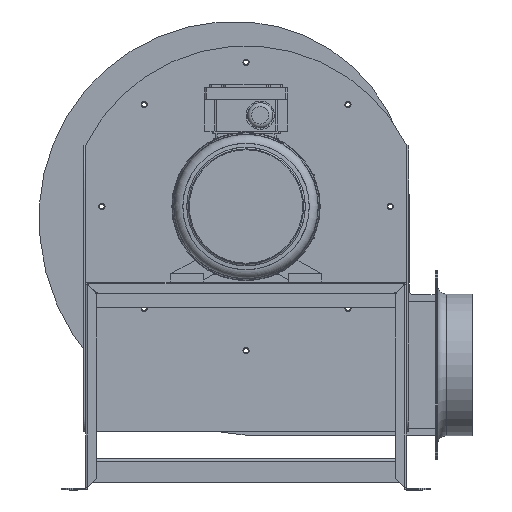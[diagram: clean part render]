
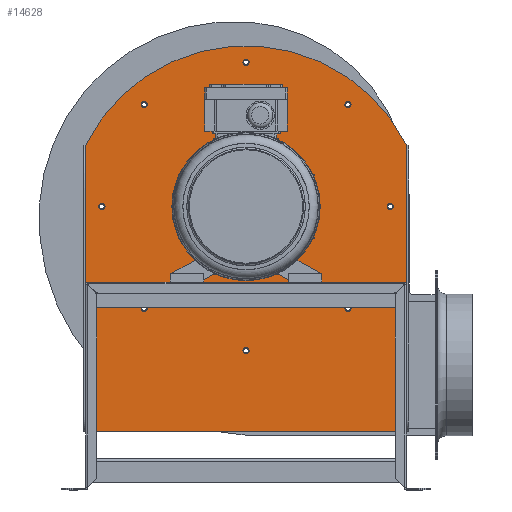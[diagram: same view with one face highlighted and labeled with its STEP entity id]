
A CAD part, left-side view. The second image highlights one B-rep face of the part: STEP entity #14628.
In plain terms, the highlighted planar face has unit normal (-1, 0, 0) as drawn and (0, 0, 1) by its records, which use the part's own axes.
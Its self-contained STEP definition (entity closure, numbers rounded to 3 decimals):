
#1145=CIRCLE('',#16128,3.25);
#1146=CIRCLE('',#16129,3.25);
#1147=CIRCLE('',#16130,3.25);
#1148=CIRCLE('',#16131,3.25);
#1149=CIRCLE('',#16132,3.25);
#1150=CIRCLE('',#16133,3.25);
#1151=CIRCLE('',#16134,30.);
#1152=CIRCLE('',#16135,3.25);
#1153=CIRCLE('',#16136,3.25);
#1154=CIRCLE('',#16137,190.119);
#4697=ORIENTED_EDGE('',*,*,#7200,.F.);
#4698=ORIENTED_EDGE('',*,*,#7201,.F.);
#4699=ORIENTED_EDGE('',*,*,#7202,.F.);
#4700=ORIENTED_EDGE('',*,*,#7203,.F.);
#4701=ORIENTED_EDGE('',*,*,#7204,.F.);
#4702=ORIENTED_EDGE('',*,*,#7205,.F.);
#4703=ORIENTED_EDGE('',*,*,#7206,.F.);
#4704=ORIENTED_EDGE('',*,*,#7207,.F.);
#4705=ORIENTED_EDGE('',*,*,#7208,.F.);
#4706=ORIENTED_EDGE('',*,*,#7209,.T.);
#4707=ORIENTED_EDGE('',*,*,#7210,.T.);
#4708=ORIENTED_EDGE('',*,*,#7211,.T.);
#4709=ORIENTED_EDGE('',*,*,#7212,.T.);
#7200=EDGE_CURVE('',#8682,#8682,#1145,.T.);
#7201=EDGE_CURVE('',#8683,#8683,#1146,.T.);
#7202=EDGE_CURVE('',#8684,#8684,#1147,.T.);
#7203=EDGE_CURVE('',#8685,#8685,#1148,.T.);
#7204=EDGE_CURVE('',#8686,#8686,#1149,.T.);
#7205=EDGE_CURVE('',#8687,#8687,#1150,.T.);
#7206=EDGE_CURVE('',#8688,#8688,#1151,.T.);
#7207=EDGE_CURVE('',#8689,#8689,#1152,.T.);
#7208=EDGE_CURVE('',#8690,#8690,#1153,.T.);
#7209=EDGE_CURVE('',#8691,#8692,#1154,.T.);
#7210=EDGE_CURVE('',#8692,#8693,#10009,.T.);
#7211=EDGE_CURVE('',#8693,#8694,#10010,.T.);
#7212=EDGE_CURVE('',#8694,#8691,#10011,.T.);
#8682=VERTEX_POINT('',#24686);
#8683=VERTEX_POINT('',#24688);
#8684=VERTEX_POINT('',#24690);
#8685=VERTEX_POINT('',#24692);
#8686=VERTEX_POINT('',#24694);
#8687=VERTEX_POINT('',#24696);
#8688=VERTEX_POINT('',#24698);
#8689=VERTEX_POINT('',#24700);
#8690=VERTEX_POINT('',#24702);
#8691=VERTEX_POINT('',#24704);
#8692=VERTEX_POINT('',#24705);
#8693=VERTEX_POINT('',#24707);
#8694=VERTEX_POINT('',#24709);
#10009=LINE('',#24706,#11252);
#10010=LINE('',#24708,#11253);
#10011=LINE('',#24710,#11254);
#11252=VECTOR('',#19998,1000.);
#11253=VECTOR('',#19999,1000.);
#11254=VECTOR('',#20000,1000.);
#12195=EDGE_LOOP('',(#4697));
#12196=EDGE_LOOP('',(#4698));
#12197=EDGE_LOOP('',(#4699));
#12198=EDGE_LOOP('',(#4700));
#12199=EDGE_LOOP('',(#4701));
#12200=EDGE_LOOP('',(#4702));
#12201=EDGE_LOOP('',(#4703));
#12202=EDGE_LOOP('',(#4704));
#12203=EDGE_LOOP('',(#4705));
#12204=EDGE_LOOP('',(#4706,#4707,#4708,#4709));
#13262=FACE_BOUND('',#12195,.T.);
#13263=FACE_BOUND('',#12196,.T.);
#13264=FACE_BOUND('',#12197,.T.);
#13265=FACE_BOUND('',#12198,.T.);
#13266=FACE_BOUND('',#12199,.T.);
#13267=FACE_BOUND('',#12200,.T.);
#13268=FACE_BOUND('',#12201,.T.);
#13269=FACE_BOUND('',#12202,.T.);
#13270=FACE_BOUND('',#12203,.T.);
#13271=FACE_BOUND('',#12204,.T.);
#13920=PLANE('',#16127);
#14628=ADVANCED_FACE('',(#13262,#13263,#13264,#13265,#13266,#13267,#13268,
#13269,#13270,#13271),#13920,.T.);
#16127=AXIS2_PLACEMENT_3D('',#24684,#19976,#19977);
#16128=AXIS2_PLACEMENT_3D('',#24685,#19978,#19979);
#16129=AXIS2_PLACEMENT_3D('',#24687,#19980,#19981);
#16130=AXIS2_PLACEMENT_3D('',#24689,#19982,#19983);
#16131=AXIS2_PLACEMENT_3D('',#24691,#19984,#19985);
#16132=AXIS2_PLACEMENT_3D('',#24693,#19986,#19987);
#16133=AXIS2_PLACEMENT_3D('',#24695,#19988,#19989);
#16134=AXIS2_PLACEMENT_3D('',#24697,#19990,#19991);
#16135=AXIS2_PLACEMENT_3D('',#24699,#19992,#19993);
#16136=AXIS2_PLACEMENT_3D('',#24701,#19994,#19995);
#16137=AXIS2_PLACEMENT_3D('',#24703,#19996,#19997);
#19976=DIRECTION('',(0.,0.,1.));
#19977=DIRECTION('',(1.,0.,0.));
#19978=DIRECTION('',(0.,0.,1.));
#19979=DIRECTION('',(1.,0.,0.));
#19980=DIRECTION('',(0.,0.,1.));
#19981=DIRECTION('',(1.,0.,0.));
#19982=DIRECTION('',(0.,0.,1.));
#19983=DIRECTION('',(1.,0.,0.));
#19984=DIRECTION('',(0.,0.,1.));
#19985=DIRECTION('',(1.,0.,0.));
#19986=DIRECTION('',(0.,0.,1.));
#19987=DIRECTION('',(1.,0.,0.));
#19988=DIRECTION('',(0.,0.,1.));
#19989=DIRECTION('',(1.,0.,0.));
#19990=DIRECTION('',(0.,0.,1.));
#19991=DIRECTION('',(1.,0.,0.));
#19992=DIRECTION('',(0.,0.,1.));
#19993=DIRECTION('',(1.,0.,0.));
#19994=DIRECTION('',(0.,0.,1.));
#19995=DIRECTION('',(1.,0.,0.));
#19996=DIRECTION('',(0.,0.,1.));
#19997=DIRECTION('',(1.,0.,0.));
#19998=DIRECTION('',(0.,-1.,0.));
#19999=DIRECTION('',(1.,0.,0.));
#20000=DIRECTION('',(0.,1.,0.));
#24684=CARTESIAN_POINT('',(0.,-20.119,2.));
#24685=CARTESIAN_POINT('',(107.834,107.834,2.));
#24686=CARTESIAN_POINT('',(111.084,107.834,2.));
#24687=CARTESIAN_POINT('',(152.5,0.,2.));
#24688=CARTESIAN_POINT('',(155.75,0.,2.));
#24689=CARTESIAN_POINT('',(107.834,-107.834,2.));
#24690=CARTESIAN_POINT('',(111.084,-107.834,2.));
#24691=CARTESIAN_POINT('',(0.,-152.5,2.));
#24692=CARTESIAN_POINT('',(3.25,-152.5,2.));
#24693=CARTESIAN_POINT('',(-107.834,-107.834,2.));
#24694=CARTESIAN_POINT('',(-104.584,-107.834,2.));
#24695=CARTESIAN_POINT('',(-152.5,0.,2.));
#24696=CARTESIAN_POINT('',(-149.25,0.,2.));
#24697=CARTESIAN_POINT('',(0.,0.,2.));
#24698=CARTESIAN_POINT('',(30.,0.,2.));
#24699=CARTESIAN_POINT('',(-107.834,107.834,2.));
#24700=CARTESIAN_POINT('',(-104.584,107.834,2.));
#24701=CARTESIAN_POINT('',(0.,152.5,2.));
#24702=CARTESIAN_POINT('',(3.25,152.5,2.));
#24703=CARTESIAN_POINT('',(0.,-20.119,2.));
#24704=CARTESIAN_POINT('',(170.,65.,2.));
#24705=CARTESIAN_POINT('',(-170.,65.,2.));
#24706=CARTESIAN_POINT('',(-170.,65.,2.));
#24707=CARTESIAN_POINT('',(-170.,-238.,2.));
#24708=CARTESIAN_POINT('',(-172.,-238.,2.));
#24709=CARTESIAN_POINT('',(170.,-238.,2.));
#24710=CARTESIAN_POINT('',(170.,-238.,2.));
